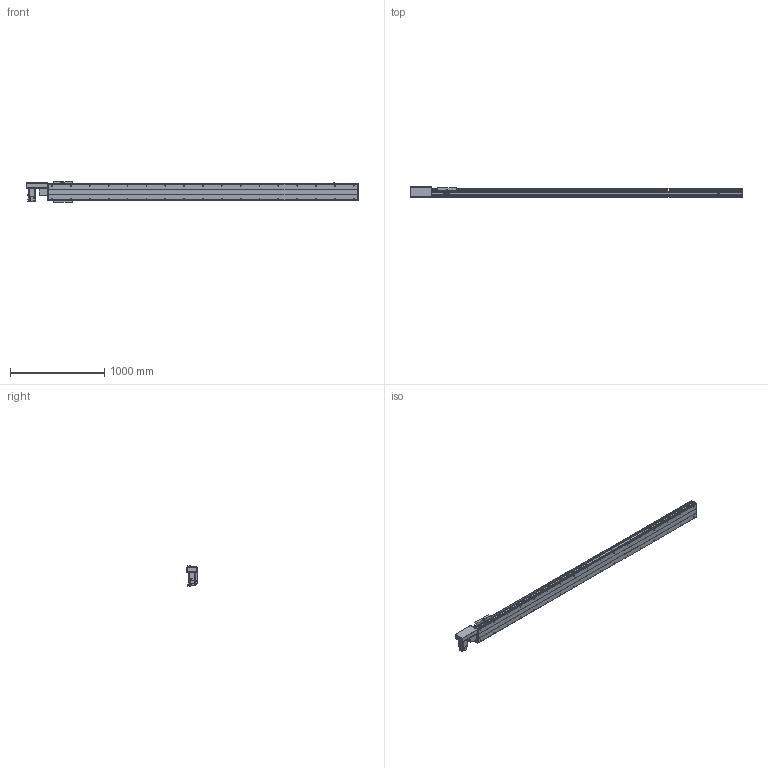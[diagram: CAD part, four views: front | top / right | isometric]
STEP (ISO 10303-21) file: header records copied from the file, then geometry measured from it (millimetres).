
FILE_DESCRIPTION(/* description */ ('STEP AP214'),/* implementation_level */ '2;1');
FILE_NAME(/* name */ 'PBS200-P40-S2900-R-T75-C1-N(0)',/* time_stamp */ '2022-06-11T08:11:19+02:00',/* author */ ('License CC BY-ND 4.0'),/* organization */ ('CADENAS'),/* preprocessor_version */ 'ST-DEVELOPER v18.102',/* originating_system */ 'PARTsolutions',/* authorisation */ ' ');
FILE_SCHEMA (('AUTOMOTIVE_DESIGN {1 0 10303 214 3 1 1}'));
Length unit declared in the file: millimetre
Products named in the file (7): PBS200-P40-S2900-R-T75-C1-N(0); PBS200_sensor; PBS200_plant; PBS200_sliser; T75-p1; PBS200T-R_motors; PBS200-S2900()_body
Assembly tree (8 placements, depth 2):
  PBS200-P40-S2900-R-T75-C1-N(0)
    PBS200_sensor  x3
    PBS200_plant
    PBS200_sliser
    T75-p1
    PBS200T-R_motors
    PBS200-S2900()_body
Bounding box: 3522 x 109 x 221 mm (x, y, z)
Volume: 23102084 mm3; surface area: 3689933.9 mm2
Topology: 8 solids, 8 shells, 974 faces, 2464 edges, 1602 vertices
Faces by surface type: plane 592, cylinder 316, cone 66
Full cylindrical faces by diameter (mm): 2.459 x6, 3.242 x4, 4.5 x6, 4.917 x4, 5 x6, 6 x7, 6.6 x8, 6.647 x38, 8 x6, 10 x4, 12 x8, 38 x2, 40 x1, 70 x1
Entity records: 25661 total; most frequent: DIRECTION 4543, CARTESIAN_POINT 4354, ORIENTED_EDGE 4090, EDGE_CURVE 2045, AXIS2_PLACEMENT_3D 1615, VERTEX_POINT 1426, LINE 1313, VECTOR 1313
